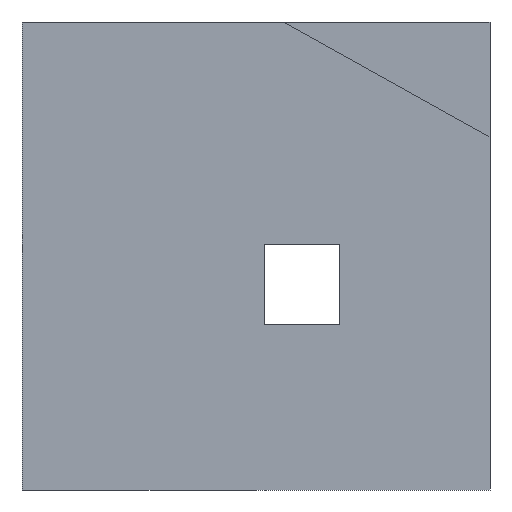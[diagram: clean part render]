
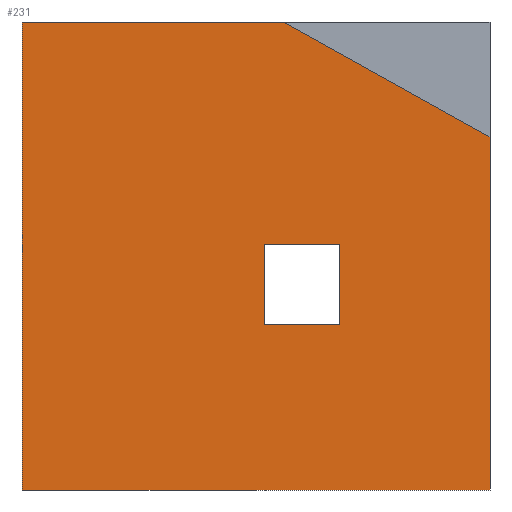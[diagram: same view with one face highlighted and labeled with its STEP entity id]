
A CAD part, left-side view. The second image highlights one B-rep face of the part: STEP entity #231.
In plain terms, the highlighted planar face has unit normal (-1, 0, 0).
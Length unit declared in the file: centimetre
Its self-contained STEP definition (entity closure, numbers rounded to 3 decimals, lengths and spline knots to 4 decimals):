
#4 = CARTESIAN_POINT ( 'NONE',  ( 0., 1000., 0. ) ) ;
#20 = EDGE_CURVE ( 'NONE', #404, #289, #323, .T. ) ;
#21 = VECTOR ( 'NONE', #129, 100. ) ;
#23 = FACE_OUTER_BOUND ( 'NONE', #328, .T. ) ;
#34 = DIRECTION ( 'NONE',  ( 1., 0., 0. ) ) ;
#53 = CARTESIAN_POINT ( 'NONE',  ( 0., 321.1277, 524.1967 ) ) ;
#61 = ORIENTED_EDGE ( 'NONE', *, *, #408, .T. ) ;
#62 = CARTESIAN_POINT ( 'NONE',  ( 0., 321.1277, 524.1967 ) ) ;
#72 = CARTESIAN_POINT ( 'NONE',  ( 0., 1000., 1000. ) ) ;
#77 = CARTESIAN_POINT ( 'NONE',  ( 0., 481.7785, 353.0223 ) ) ;
#78 = VERTEX_POINT ( 'NONE', #72 ) ;
#79 = CARTESIAN_POINT ( 'NONE',  ( 0., 1000., 1000. ) ) ;
#88 = AXIS2_PLACEMENT_3D ( 'NONE', #181, #34, #147 ) ;
#96 = CARTESIAN_POINT ( 'NONE',  ( 0., 321.1277, 353.0223 ) ) ;
#99 = LINE ( 'NONE', #77, #21 ) ;
#107 = ORIENTED_EDGE ( 'NONE', *, *, #371, .F. ) ;
#129 = DIRECTION ( 'NONE',  ( 0., 0., 1. ) ) ;
#134 = VERTEX_POINT ( 'NONE', #392 ) ;
#147 = DIRECTION ( 'NONE',  ( 0., 0., -1. ) ) ;
#158 = CARTESIAN_POINT ( 'NONE',  ( 0., 321.1277, 353.0223 ) ) ;
#161 = CARTESIAN_POINT ( 'NONE',  ( 0., 1000., 1000. ) ) ;
#170 = VECTOR ( 'NONE', #258, 100. ) ;
#172 = VECTOR ( 'NONE', #380, 100. ) ;
#181 = CARTESIAN_POINT ( 'NONE',  ( 0., 1000., 1000. ) ) ;
#186 = LINE ( 'NONE', #96, #334 ) ;
#193 = CARTESIAN_POINT ( 'NONE',  ( 0., 440.6844, 1000. ) ) ;
#205 = CARTESIAN_POINT ( 'NONE',  ( 0., 0., 754.2468 ) ) ;
#216 = VERTEX_POINT ( 'NONE', #205 ) ;
#217 = EDGE_CURVE ( 'NONE', #236, #268, #354, .T. ) ;
#226 = DIRECTION ( 'NONE',  ( 0., 0., -1. ) ) ;
#231 = ADVANCED_FACE ( 'NONE', ( #372, #23 ), #234, .F. ) ;
#234 = PLANE ( 'NONE',  #88 ) ;
#236 = VERTEX_POINT ( 'NONE', #158 ) ;
#240 = EDGE_CURVE ( 'NONE', #337, #134, #436, .T. ) ;
#246 = CARTESIAN_POINT ( 'NONE',  ( 0., 440.6844, 1000. ) ) ;
#247 = VECTOR ( 'NONE', #363, 100. ) ;
#258 = DIRECTION ( 'NONE',  ( 0., -1., 0. ) ) ;
#262 = CARTESIAN_POINT ( 'NONE',  ( 0., 481.7785, 353.0223 ) ) ;
#264 = ORIENTED_EDGE ( 'NONE', *, *, #375, .F. ) ;
#268 = VERTEX_POINT ( 'NONE', #262 ) ;
#271 = EDGE_CURVE ( 'NONE', #289, #236, #186, .T. ) ;
#273 = CARTESIAN_POINT ( 'NONE',  ( 0., 481.7785, 524.1967 ) ) ;
#275 = VECTOR ( 'NONE', #429, 100. ) ;
#285 = ORIENTED_EDGE ( 'NONE', *, *, #288, .F. ) ;
#288 = EDGE_CURVE ( 'NONE', #216, #134, #402, .T. ) ;
#289 = VERTEX_POINT ( 'NONE', #62 ) ;
#300 = VECTOR ( 'NONE', #344, 100. ) ;
#306 = ORIENTED_EDGE ( 'NONE', *, *, #387, .T. ) ;
#309 = ORIENTED_EDGE ( 'NONE', *, *, #240, .T. ) ;
#314 = LINE ( 'NONE', #161, #172 ) ;
#323 = LINE ( 'NONE', #53, #170 ) ;
#325 = ORIENTED_EDGE ( 'NONE', *, *, #271, .T. ) ;
#328 = EDGE_LOOP ( 'NONE', ( #285, #264, #107, #61, #309 ) ) ;
#329 = DIRECTION ( 'NONE',  ( 0., -1., 0. ) ) ;
#334 = VECTOR ( 'NONE', #226, 100. ) ;
#337 = VERTEX_POINT ( 'NONE', #4 ) ;
#338 = VECTOR ( 'NONE', #329, 100. ) ;
#344 = DIRECTION ( 'NONE',  ( 0., -0.873, -0.487 ) ) ;
#354 = LINE ( 'NONE', #395, #275 ) ;
#363 = DIRECTION ( 'NONE',  ( 0., 0., -1. ) ) ;
#364 = ORIENTED_EDGE ( 'NONE', *, *, #217, .T. ) ;
#367 = CARTESIAN_POINT ( 'NONE',  ( 0., 1000., 0. ) ) ;
#371 = EDGE_CURVE ( 'NONE', #78, #430, #314, .T. ) ;
#372 = FACE_BOUND ( 'NONE', #425, .T. ) ;
#375 = EDGE_CURVE ( 'NONE', #430, #216, #416, .T. ) ;
#380 = DIRECTION ( 'NONE',  ( 0., -1., 0. ) ) ;
#387 = EDGE_CURVE ( 'NONE', #268, #404, #99, .T. ) ;
#392 = CARTESIAN_POINT ( 'NONE',  ( 0., 0., 0. ) ) ;
#395 = CARTESIAN_POINT ( 'NONE',  ( 0., 321.1277, 353.0223 ) ) ;
#398 = VECTOR ( 'NONE', #407, 100. ) ;
#402 = LINE ( 'NONE', #405, #247 ) ;
#404 = VERTEX_POINT ( 'NONE', #273 ) ;
#405 = CARTESIAN_POINT ( 'NONE',  ( 0., 0., 1000. ) ) ;
#407 = DIRECTION ( 'NONE',  ( 0., 0., -1. ) ) ;
#408 = EDGE_CURVE ( 'NONE', #78, #337, #411, .T. ) ;
#411 = LINE ( 'NONE', #79, #398 ) ;
#413 = ORIENTED_EDGE ( 'NONE', *, *, #20, .T. ) ;
#416 = LINE ( 'NONE', #193, #300 ) ;
#425 = EDGE_LOOP ( 'NONE', ( #325, #364, #306, #413 ) ) ;
#429 = DIRECTION ( 'NONE',  ( 0., 1., 0. ) ) ;
#430 = VERTEX_POINT ( 'NONE', #246 ) ;
#436 = LINE ( 'NONE', #367, #338 ) ;
